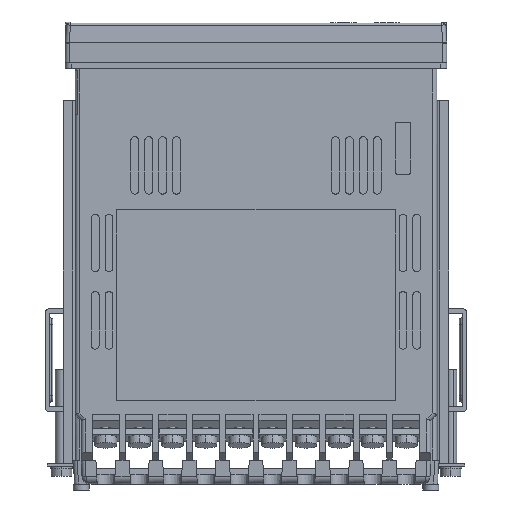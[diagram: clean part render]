
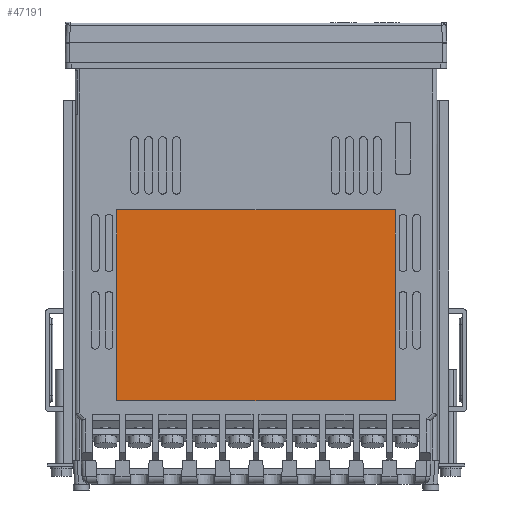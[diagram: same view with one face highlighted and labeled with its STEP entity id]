
A CAD part, left-side view. The second image highlights one B-rep face of the part: STEP entity #47191.
In plain terms, the highlighted planar face has unit normal (-1, 0, 0).
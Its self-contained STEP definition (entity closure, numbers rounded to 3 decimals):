
#650 = VECTOR ( 'NONE', #23905, 1000. ) ;
#756 = DIRECTION ( 'NONE',  ( -1., 0., 0. ) ) ;
#4480 = LINE ( 'NONE', #60905, #650 ) ;
#4635 = VECTOR ( 'NONE', #29909, 1000. ) ;
#8352 = DIRECTION ( 'NONE',  ( 0., 1., 0. ) ) ;
#9634 = CARTESIAN_POINT ( 'NONE',  ( -21.95, -35., -42.2 ) ) ;
#11505 = ORIENTED_EDGE ( 'NONE', *, *, #58112, .T. ) ;
#11930 = LINE ( 'NONE', #45298, #59234 ) ;
#17826 = EDGE_CURVE ( 'NONE', #21924, #57914, #32229, .T. ) ;
#21924 = VERTEX_POINT ( 'NONE', #34401 ) ;
#23634 = CARTESIAN_POINT ( 'NONE',  ( -21.95, 35., -90.2 ) ) ;
#23905 = DIRECTION ( 'NONE',  ( 0., 0., 1. ) ) ;
#24680 = DIRECTION ( 'NONE',  ( 0., 0., -1. ) ) ;
#27335 = VERTEX_POINT ( 'NONE', #9634 ) ;
#29555 = EDGE_LOOP ( 'NONE', ( #77417, #11505, #68171, #31090 ) ) ;
#29803 = CARTESIAN_POINT ( 'NONE',  ( -21.95, 35., -90.2 ) ) ;
#29909 = DIRECTION ( 'NONE',  ( 0., -1., 0. ) ) ;
#30440 = VERTEX_POINT ( 'NONE', #41432 ) ;
#31090 = ORIENTED_EDGE ( 'NONE', *, *, #72267, .T. ) ;
#32229 = LINE ( 'NONE', #55434, #63125 ) ;
#34401 = CARTESIAN_POINT ( 'NONE',  ( -21.95, 35., -42.2 ) ) ;
#37154 = PLANE ( 'NONE',  #58988 ) ;
#37689 = CARTESIAN_POINT ( 'NONE',  ( -21.95, 0., -0.2 ) ) ;
#41432 = CARTESIAN_POINT ( 'NONE',  ( -21.95, -35., -90.2 ) ) ;
#43863 = DIRECTION ( 'NONE',  ( 0., 0., 1. ) ) ;
#45298 = CARTESIAN_POINT ( 'NONE',  ( -21.95, -35., -42.2 ) ) ;
#47191 = ADVANCED_FACE ( 'NONE', ( #66306 ), #37154, .T. ) ;
#53844 = LINE ( 'NONE', #23634, #4635 ) ;
#55434 = CARTESIAN_POINT ( 'NONE',  ( -21.95, 35., -90.2 ) ) ;
#57403 = EDGE_CURVE ( 'NONE', #30440, #27335, #4480, .T. ) ;
#57914 = VERTEX_POINT ( 'NONE', #29803 ) ;
#58112 = EDGE_CURVE ( 'NONE', #27335, #21924, #11930, .T. ) ;
#58988 = AXIS2_PLACEMENT_3D ( 'NONE', #37689, #756, #43863 ) ;
#59234 = VECTOR ( 'NONE', #8352, 1000. ) ;
#60905 = CARTESIAN_POINT ( 'NONE',  ( -21.95, -35., -90.2 ) ) ;
#63125 = VECTOR ( 'NONE', #24680, 1000. ) ;
#66306 = FACE_OUTER_BOUND ( 'NONE', #29555, .T. ) ;
#68171 = ORIENTED_EDGE ( 'NONE', *, *, #17826, .T. ) ;
#72267 = EDGE_CURVE ( 'NONE', #57914, #30440, #53844, .T. ) ;
#77417 = ORIENTED_EDGE ( 'NONE', *, *, #57403, .T. ) ;
